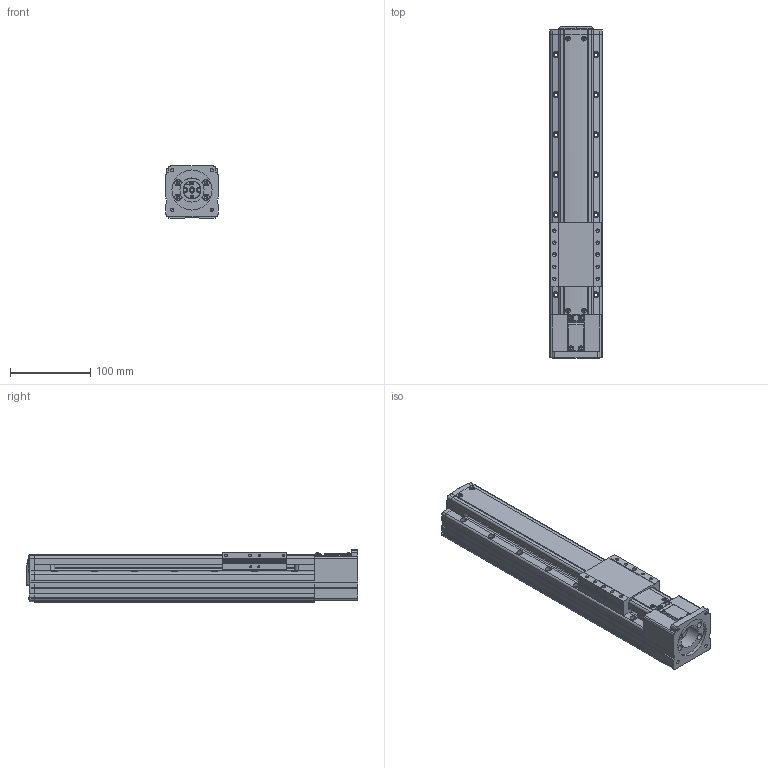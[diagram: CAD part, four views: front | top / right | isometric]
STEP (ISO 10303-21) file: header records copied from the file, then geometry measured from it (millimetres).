
FILE_DESCRIPTION(('STEP AP214'),'1');
FILE_NAME('Z:/Web/3D/PSA65/STP/PSA65-200 (3D)/PSA65ㅁㅁ-200S.stp','2014-06-25T03:23:39',(' '),(' '),'Spatial InterOp 3D',' ',' ');
FILE_SCHEMA(('automotive_design'));
Length unit declared in the file: millimetre
Products named in the file (80): SLIDE; RRCV-PA060; 1; 2; 3; 4; 5; 6; 7; 8; 9; 10; 11; 12; 13; 14; 15; 16; 17; 18; 19; 20; 21; 22; 23; 24; 25; 26; 27; 28; 29; 30; 31; 스크루 : Round - M3.0 x 8.0; RN8 x 0.75; SHAFT-SAN65; BASE; 스크루 : Round - M3.0 x 6.0; MTHZ - PSA65-60A; CPLCV-SAN45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
Bounding box: 65 x 414.8 x 65 mm (x, y, z)
Volume: 1287405.3 mm3; surface area: 206293.6 mm2
Topology: 80 solids, 80 shells, 2328 faces, 6157 edges, 3949 vertices
Faces by surface type: plane 1214, cylinder 736, cone 305, sphere 30, bspline 23, torus 20
Entity records: 93774 total; most frequent: CARTESIAN_POINT 15130, DIRECTION 12629, ORIENTED_EDGE 12094, EDGE_CURVE 6047, AXIS2_PLACEMENT_3D 4386, VERTEX_POINT 3949, LINE 3857, VECTOR 3857
